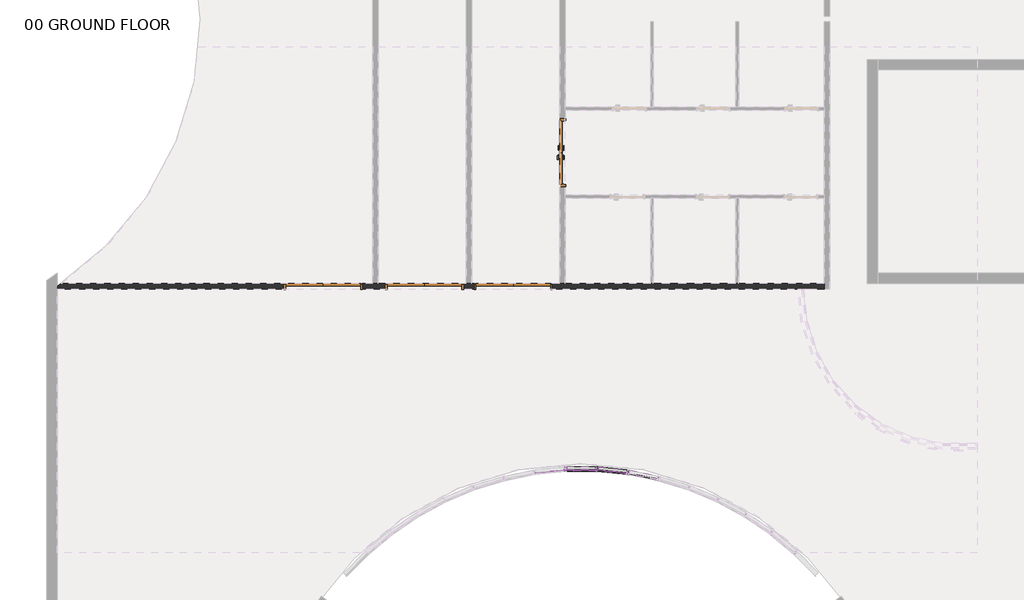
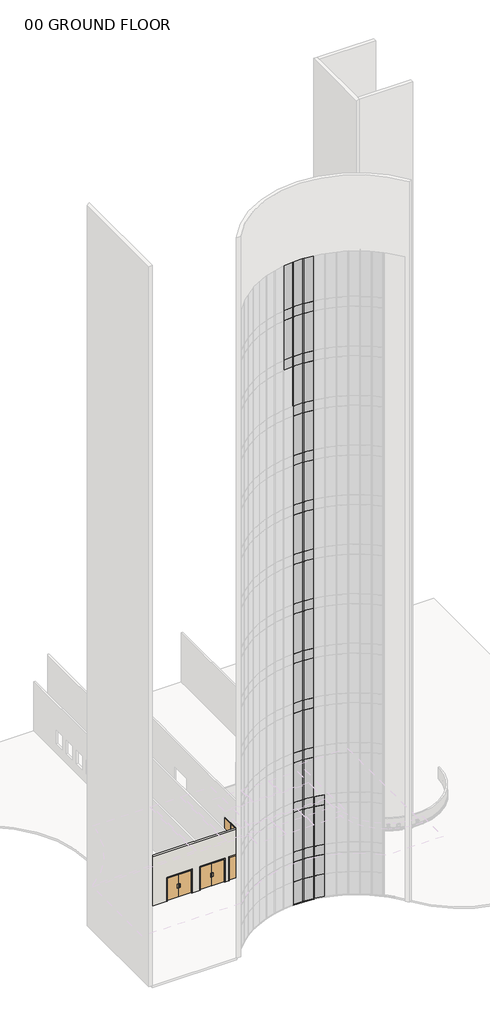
# One storey, part 8 of 33: 61 plates, 39 members, 4 doors, 1 wall.
"""IFC4 building model written with IfcOpenShell, lengths in millimetres."""

from ifc_helpers import new_model, si_unit, frame, origin, place, context, project, spatial, polyline, circle_curve, transform, mapped, element, save
from ifc_brep_helpers import plane_surface, revolved_surface, advanced_brep
from components import door_2f250f70, door_0b13e4d9, door_b3a27a16, member_ab6b85c2, member_7cbddb58, member_d60e8053, member_410c6227, member_810865a4, member_9e61c091, system_panel_su_blue_992d2dbe, system_panel_su_blue_f02faf6b, system_panel_su_blue_144861c6, system_panel_su_blue_654c3fe2, system_panel_su_blue_af244712

model = new_model("IFC4")

# Units and contexts
model_context = context("Model", 3, world=origin())
ifc_project = project(units=[si_unit("LENGTHUNIT", "METRE", prefix="MILLI")], contexts=[model_context])

# Site, building, storey
site = spatial("IfcSite", under=ifc_project)
building = spatial("IfcBuilding", under=site)
storey = spatial("IfcBuildingStorey", under=building, Name="00 GROUND FLOOR", Elevation=0.0)

# Doors
placement = place(None, origin())
door_shape = door_2f250f70(model_context)
element("IfcDoor", 1, ObjectType="Door-Passage-Double-Flush : 72\" x 82\"", at=placement, inside=storey, context=model_context, shape_type="MappedRepresentation", body=[
    mapped(door_shape, transform((14556.3400257, 13109.575, 0.0), x_axis=(0.0, 1.0, 0.0), y_axis=(-1.0, 0.0, 0.0), z_axis=(0.0, 0.0, 1.0))),
])
door_2_shape = door_0b13e4d9(model_context)
element("IfcDoor", 2, ObjectType="Door-Passage-Double-Flush-Dbl_Acting : 84\" x 84\"", at=placement, inside=storey, context=model_context, shape_type="MappedRepresentation", body=[
    mapped(door_2_shape, transform((13151.4025257, 9293.225, 0.0), x_axis=(-1.0, 0.0, 0.0), y_axis=(0.0, -1.0, 0.0), z_axis=(0.0, 0.0, 1.0))),
])
door_3_shape = door_b3a27a16(model_context)
element("IfcDoor", 3, ObjectType="Door-Passage-Double-Flush-Dbl_Acting : 84\" x 84\"", at=placement, inside=storey, context=model_context, shape_type="MappedRepresentation", body=[
    mapped(door_3_shape, transform((10620.375, 9293.225, 0.0), x_axis=(1.0, 0.0, 0.0), y_axis=(0.0, 1.0, 0.0), z_axis=(0.0, 0.0, 1.0))),
])
element("IfcDoor", 4, ObjectType="Door-Passage-Double-Flush-Dbl_Acting : 84\" x 84\"", at=placement, inside=storey, context=model_context, shape_type="MappedRepresentation", body=[
    mapped(door_3_shape, transform((7730.5724743, 9293.225, 0.0), x_axis=(1.0, 0.0, 0.0), y_axis=(0.0, 1.0, 0.0), z_axis=(0.0, 0.0, 1.0))),
])

# Members
member_shape = member_ab6b85c2(model_context)
element("IfcMember", 5, ObjectType="Rectangular Mullion : 2.5\" x 5\" rectangular", at=placement, inside=storey, context=model_context, shape_type="MappedRepresentation", body=[
    mapped(member_shape, transform((16458.8016748, 3983.2065504, 59436.0), x_axis=(0.0, 0.0, 1.0), y_axis=(0.1977415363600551, 0.9802541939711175, 0.0), z_axis=(-0.9802541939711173, 0.19774153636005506, 0.0))),
])
element("IfcMember", 6, ObjectType="Rectangular Mullion : 2.5\" x 5\" rectangular", at=placement, inside=storey, context=model_context, shape_type="MappedRepresentation", body=[
    mapped(member_shape, transform((15569.4774867, 4075.1819269, 59436.0), x_axis=(0.0, 0.0, 1.0), y_axis=(0.09936248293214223, 0.9950513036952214, 0.0), z_axis=(-0.9950513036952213, 0.09936248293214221, 0.0))),
])
element("IfcMember", 7, ObjectType="Rectangular Mullion : 2.5\" x 5\" rectangular", at=placement, inside=storey, context=model_context, shape_type="MappedRepresentation", body=[
    mapped(member_shape, transform((16396.0857253, 3992.639603, 0.0), x_axis=(0.0, 0.0, -1.0), y_axis=(0.09936248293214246, 0.9950513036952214, 0.0), z_axis=(0.9950513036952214, -0.09936248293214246, 0.0))),
])
element("IfcMember", 8, ObjectType="Rectangular Mullion : 2.5\" x 5\" rectangular", at=placement, inside=storey, context=model_context, shape_type="MappedRepresentation", body=[
    mapped(member_shape, transform((15506.1346078, 4078.3366857, 0.0), x_axis=(0.0, 0.0, -1.0), y_axis=(0.0, 1.0, 0.0), z_axis=(1.0, 0.0, 0.0))),
])
member_2_shape = member_7cbddb58(model_context)
element("IfcMember", 9, ObjectType="Rectangular Mullion : 2.5\" x 5\" rectangular", at=placement, inside=storey, context=model_context, shape_type="MappedRepresentation", body=[
    mapped(member_2_shape, transform((16427.6786042, 3989.4848442, 0.0), x_axis=(-0.988876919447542, 0.14873613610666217, 0.0), y_axis=(0.14873613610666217, 0.988876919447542, 0.0), z_axis=(0.0, 0.0, -1.0))),
])
element("IfcMember", 10, ObjectType="Rectangular Mullion : 2.5\" x 5\" rectangular", at=placement, inside=storey, context=model_context, shape_type="MappedRepresentation", body=[
    mapped(member_2_shape, transform((15537.8846078, 4078.3366857, 0.0), x_axis=(-0.9987620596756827, 0.04974282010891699, 0.0), y_axis=(0.04974282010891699, 0.9987620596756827, 0.0), z_axis=(0.0, 0.0, -1.0))),
])
member_3_shape = member_d60e8053(model_context)
element("IfcMember", 11, ObjectType="Rectangular Mullion : 2.5\" x 5\" rectangular", at=placement, inside=storey, context=model_context, shape_type="MappedRepresentation", body=[
    mapped(member_3_shape, transform((16427.6786042, 3989.4848442, 2133.6), x_axis=(-0.988876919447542, 0.14873613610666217, 0.0), y_axis=(0.14873613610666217, 0.988876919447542, 0.0), z_axis=(0.0, 0.0, -1.0))),
])
element("IfcMember", 12, ObjectType="Rectangular Mullion : 2.5\" x 5\" rectangular", at=placement, inside=storey, context=model_context, shape_type="MappedRepresentation", body=[
    mapped(member_3_shape, transform((15537.8846078, 4078.3366857, 2133.6), x_axis=(-0.9987620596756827, 0.04974282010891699, 0.0), y_axis=(0.04974282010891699, 0.9987620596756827, 0.0), z_axis=(0.0, 0.0, -1.0))),
])
member_4_shape = member_410c6227(model_context)
element("IfcMember", 13, ObjectType="Rectangular Mullion : 2.5\" x 5\" rectangular", at=placement, inside=storey, context=model_context, shape_type="MappedRepresentation", body=[
    mapped(member_4_shape, transform((16427.6786042, 3989.4848442, 3962.4), x_axis=(-0.988876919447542, 0.14873613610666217, 0.0), y_axis=(0.14873613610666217, 0.988876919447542, 0.0), z_axis=(0.0, 0.0, -1.0))),
])
element("IfcMember", 14, ObjectType="Rectangular Mullion : 2.5\" x 5\" rectangular", at=placement, inside=storey, context=model_context, shape_type="MappedRepresentation", body=[
    mapped(member_4_shape, transform((15537.8846078, 4078.3366857, 3962.4), x_axis=(-0.9987620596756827, 0.04974282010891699, 0.0), y_axis=(0.04974282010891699, 0.9987620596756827, 0.0), z_axis=(0.0, 0.0, -1.0))),
])
element("IfcMember", 15, ObjectType="Rectangular Mullion : 2.5\" x 5\" rectangular", at=placement, inside=storey, context=model_context, shape_type="MappedRepresentation", body=[
    mapped(member_4_shape, transform((15537.8846078, 4078.3366857, 8534.4), x_axis=(-0.9987620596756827, 0.04974282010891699, 0.0), y_axis=(0.04974282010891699, 0.9987620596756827, 0.0), z_axis=(0.0, 0.0, -1.0))),
])
element("IfcMember", 16, ObjectType="Rectangular Mullion : 2.5\" x 5\" rectangular", at=placement, inside=storey, context=model_context, shape_type="MappedRepresentation", body=[
    mapped(member_4_shape, transform((15537.8846078, 4078.3366857, 13106.4), x_axis=(-0.9987620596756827, 0.04974282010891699, 0.0), y_axis=(0.04974282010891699, 0.9987620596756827, 0.0), z_axis=(0.0, 0.0, -1.0))),
])
element("IfcMember", 17, ObjectType="Rectangular Mullion : 2.5\" x 5\" rectangular", at=placement, inside=storey, context=model_context, shape_type="MappedRepresentation", body=[
    mapped(member_4_shape, transform((15537.8846078, 4078.3366857, 17678.4), x_axis=(-0.9987620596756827, 0.04974282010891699, 0.0), y_axis=(0.04974282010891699, 0.9987620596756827, 0.0), z_axis=(0.0, 0.0, -1.0))),
])
element("IfcMember", 18, ObjectType="Rectangular Mullion : 2.5\" x 5\" rectangular", at=placement, inside=storey, context=model_context, shape_type="MappedRepresentation", body=[
    mapped(member_4_shape, transform((15537.8846078, 4078.3366857, 22250.4), x_axis=(-0.9987620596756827, 0.04974282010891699, 0.0), y_axis=(0.04974282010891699, 0.9987620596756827, 0.0), z_axis=(0.0, 0.0, -1.0))),
])
element("IfcMember", 19, ObjectType="Rectangular Mullion : 2.5\" x 5\" rectangular", at=placement, inside=storey, context=model_context, shape_type="MappedRepresentation", body=[
    mapped(member_4_shape, transform((15537.8846078, 4078.3366857, 26822.4), x_axis=(-0.9987620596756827, 0.04974282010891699, 0.0), y_axis=(0.04974282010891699, 0.9987620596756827, 0.0), z_axis=(0.0, 0.0, -1.0))),
])
element("IfcMember", 20, ObjectType="Rectangular Mullion : 2.5\" x 5\" rectangular", at=placement, inside=storey, context=model_context, shape_type="MappedRepresentation", body=[
    mapped(member_4_shape, transform((15537.8846078, 4078.3366857, 31394.4), x_axis=(-0.9987620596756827, 0.04974282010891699, 0.0), y_axis=(0.04974282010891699, 0.9987620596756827, 0.0), z_axis=(0.0, 0.0, -1.0))),
])
element("IfcMember", 21, ObjectType="Rectangular Mullion : 2.5\" x 5\" rectangular", at=placement, inside=storey, context=model_context, shape_type="MappedRepresentation", body=[
    mapped(member_4_shape, transform((15537.8846078, 4078.3366857, 35966.4), x_axis=(-0.9987620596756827, 0.04974282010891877, 0.0), y_axis=(0.04974282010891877, 0.9987620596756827, 0.0), z_axis=(0.0, 0.0, -1.0))),
])
element("IfcMember", 22, ObjectType="Rectangular Mullion : 2.5\" x 5\" rectangular", at=placement, inside=storey, context=model_context, shape_type="MappedRepresentation", body=[
    mapped(member_4_shape, transform((15537.8846078, 4078.3366857, 40538.4), x_axis=(-0.9987620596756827, 0.04974282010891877, 0.0), y_axis=(0.04974282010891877, 0.9987620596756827, 0.0), z_axis=(0.0, 0.0, -1.0))),
])
element("IfcMember", 23, ObjectType="Rectangular Mullion : 2.5\" x 5\" rectangular", at=placement, inside=storey, context=model_context, shape_type="MappedRepresentation", body=[
    mapped(member_4_shape, transform((15537.8846078, 4078.3366857, 45110.4), x_axis=(-0.9987620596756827, 0.04974282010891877, 0.0), y_axis=(0.04974282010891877, 0.9987620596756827, 0.0), z_axis=(0.0, 0.0, -1.0))),
])
element("IfcMember", 24, ObjectType="Rectangular Mullion : 2.5\" x 5\" rectangular", at=placement, inside=storey, context=model_context, shape_type="MappedRepresentation", body=[
    mapped(member_4_shape, transform((15537.8846078, 4078.3366857, 49682.4), x_axis=(-0.9987620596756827, 0.04974282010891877, 0.0), y_axis=(0.04974282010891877, 0.9987620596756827, 0.0), z_axis=(0.0, 0.0, -1.0))),
])
element("IfcMember", 25, ObjectType="Rectangular Mullion : 2.5\" x 5\" rectangular", at=placement, inside=storey, context=model_context, shape_type="MappedRepresentation", body=[
    mapped(member_4_shape, transform((14643.6653922, 4078.3366857, 49682.4), x_axis=(-0.9987620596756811, -0.04974282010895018, 0.0), y_axis=(-0.04974282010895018, 0.9987620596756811, 0.0), z_axis=(0.0, 0.0, -1.0))),
])
element("IfcMember", 26, ObjectType="Rectangular Mullion : 2.5\" x 5\" rectangular", at=placement, inside=storey, context=model_context, shape_type="MappedRepresentation", body=[
    mapped(member_4_shape, transform((15537.8846078, 4078.3366857, 54254.4), x_axis=(-0.9987620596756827, 0.04974282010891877, 0.0), y_axis=(0.04974282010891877, 0.9987620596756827, 0.0), z_axis=(0.0, 0.0, -1.0))),
])
element("IfcMember", 27, ObjectType="Rectangular Mullion : 2.5\" x 5\" rectangular", at=placement, inside=storey, context=model_context, shape_type="MappedRepresentation", body=[
    mapped(member_4_shape, transform((14643.6653922, 4078.3366857, 54254.4), x_axis=(-0.9987620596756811, -0.04974282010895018, 0.0), y_axis=(-0.04974282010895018, 0.9987620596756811, 0.0), z_axis=(0.0, 0.0, -1.0))),
])
member_5_shape = member_810865a4(model_context)
element("IfcMember", 28, ObjectType="Rectangular Mullion : 2.5\" x 5\" rectangular", at=placement, inside=storey, context=model_context, shape_type="MappedRepresentation", body=[
    mapped(member_5_shape, transform((16427.6786042, 3989.4848442, 4876.8), x_axis=(-0.988876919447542, 0.14873613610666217, 0.0), y_axis=(0.14873613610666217, 0.988876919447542, 0.0), z_axis=(0.0, 0.0, -1.0))),
])
element("IfcMember", 29, ObjectType="Rectangular Mullion : 2.5\" x 5\" rectangular", at=placement, inside=storey, context=model_context, shape_type="MappedRepresentation", body=[
    mapped(member_5_shape, transform((15537.8846078, 4078.3366857, 4876.8), x_axis=(-0.9987620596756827, 0.04974282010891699, 0.0), y_axis=(0.04974282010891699, 0.9987620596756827, 0.0), z_axis=(0.0, 0.0, -1.0))),
])
element("IfcMember", 30, ObjectType="Rectangular Mullion : 2.5\" x 5\" rectangular", at=placement, inside=storey, context=model_context, shape_type="MappedRepresentation", body=[
    mapped(member_5_shape, transform((15537.8846078, 4078.3366857, 9448.8), x_axis=(-0.9987620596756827, 0.04974282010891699, 0.0), y_axis=(0.04974282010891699, 0.9987620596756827, 0.0), z_axis=(0.0, 0.0, -1.0))),
])
element("IfcMember", 31, ObjectType="Rectangular Mullion : 2.5\" x 5\" rectangular", at=placement, inside=storey, context=model_context, shape_type="MappedRepresentation", body=[
    mapped(member_5_shape, transform((15537.8846078, 4078.3366857, 14020.8), x_axis=(-0.9987620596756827, 0.04974282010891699, 0.0), y_axis=(0.04974282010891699, 0.9987620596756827, 0.0), z_axis=(0.0, 0.0, -1.0))),
])
element("IfcMember", 32, ObjectType="Rectangular Mullion : 2.5\" x 5\" rectangular", at=placement, inside=storey, context=model_context, shape_type="MappedRepresentation", body=[
    mapped(member_5_shape, transform((15537.8846078, 4078.3366857, 18592.8), x_axis=(-0.9987620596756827, 0.04974282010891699, 0.0), y_axis=(0.04974282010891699, 0.9987620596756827, 0.0), z_axis=(0.0, 0.0, -1.0))),
])
element("IfcMember", 33, ObjectType="Rectangular Mullion : 2.5\" x 5\" rectangular", at=placement, inside=storey, context=model_context, shape_type="MappedRepresentation", body=[
    mapped(member_5_shape, transform((15537.8846078, 4078.3366857, 23164.8), x_axis=(-0.9987620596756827, 0.04974282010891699, 0.0), y_axis=(0.04974282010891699, 0.9987620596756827, 0.0), z_axis=(0.0, 0.0, -1.0))),
])
element("IfcMember", 34, ObjectType="Rectangular Mullion : 2.5\" x 5\" rectangular", at=placement, inside=storey, context=model_context, shape_type="MappedRepresentation", body=[
    mapped(member_5_shape, transform((15537.8846078, 4078.3366857, 27736.8), x_axis=(-0.9987620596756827, 0.04974282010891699, 0.0), y_axis=(0.04974282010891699, 0.9987620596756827, 0.0), z_axis=(0.0, 0.0, -1.0))),
])
element("IfcMember", 35, ObjectType="Rectangular Mullion : 2.5\" x 5\" rectangular", at=placement, inside=storey, context=model_context, shape_type="MappedRepresentation", body=[
    mapped(member_5_shape, transform((15537.8846078, 4078.3366857, 32308.8), x_axis=(-0.9987620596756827, 0.04974282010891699, 0.0), y_axis=(0.04974282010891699, 0.9987620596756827, 0.0), z_axis=(0.0, 0.0, -1.0))),
])
element("IfcMember", 36, ObjectType="Rectangular Mullion : 2.5\" x 5\" rectangular", at=placement, inside=storey, context=model_context, shape_type="MappedRepresentation", body=[
    mapped(member_5_shape, transform((15537.8846078, 4078.3366857, 36880.8), x_axis=(-0.9987620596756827, 0.04974282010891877, 0.0), y_axis=(0.04974282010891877, 0.9987620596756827, 0.0), z_axis=(0.0, 0.0, -1.0))),
])
element("IfcMember", 37, ObjectType="Rectangular Mullion : 2.5\" x 5\" rectangular", at=placement, inside=storey, context=model_context, shape_type="MappedRepresentation", body=[
    mapped(member_5_shape, transform((15537.8846078, 4078.3366857, 41452.8), x_axis=(-0.9987620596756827, 0.04974282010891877, 0.0), y_axis=(0.04974282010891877, 0.9987620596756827, 0.0), z_axis=(0.0, 0.0, -1.0))),
])
element("IfcMember", 38, ObjectType="Rectangular Mullion : 2.5\" x 5\" rectangular", at=placement, inside=storey, context=model_context, shape_type="MappedRepresentation", body=[
    mapped(member_5_shape, transform((15537.8846078, 4078.3366857, 46024.8), x_axis=(-0.9987620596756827, 0.04974282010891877, 0.0), y_axis=(0.04974282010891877, 0.9987620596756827, 0.0), z_axis=(0.0, 0.0, -1.0))),
])
element("IfcMember", 39, ObjectType="Rectangular Mullion : 2.5\" x 5\" rectangular", at=placement, inside=storey, context=model_context, shape_type="MappedRepresentation", body=[
    mapped(member_5_shape, transform((14643.6653922, 4078.3366857, 46024.8), x_axis=(-0.9987620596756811, -0.04974282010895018, 0.0), y_axis=(-0.04974282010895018, 0.9987620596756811, 0.0), z_axis=(0.0, 0.0, -1.0))),
])
element("IfcMember", 40, ObjectType="Rectangular Mullion : 2.5\" x 5\" rectangular", at=placement, inside=storey, context=model_context, shape_type="MappedRepresentation", body=[
    mapped(member_5_shape, transform((15537.8846078, 4078.3366857, 50596.8), x_axis=(-0.9987620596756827, 0.04974282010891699, 0.0), y_axis=(0.04974282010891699, 0.9987620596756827, 0.0), z_axis=(0.0, 0.0, -1.0))),
])
element("IfcMember", 41, ObjectType="Rectangular Mullion : 2.5\" x 5\" rectangular", at=placement, inside=storey, context=model_context, shape_type="MappedRepresentation", body=[
    mapped(member_5_shape, transform((14643.6653922, 4078.3366857, 50596.8), x_axis=(-0.9987620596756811, -0.04974282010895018, 0.0), y_axis=(-0.04974282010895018, 0.9987620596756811, 0.0), z_axis=(0.0, 0.0, -1.0))),
])
member_6_shape = member_9e61c091(model_context)
element("IfcMember", 42, ObjectType="Rectangular Mullion : 2.5\" x 5\" rectangular", at=placement, inside=storey, context=model_context, shape_type="MappedRepresentation", body=[
    mapped(member_6_shape, transform((15537.8846078, 4078.3366857, 55168.8), x_axis=(-0.9987620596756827, 0.04974282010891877, 0.0), y_axis=(0.04974282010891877, 0.9987620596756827, 0.0), z_axis=(0.0, 0.0, -1.0))),
])
element("IfcMember", 43, ObjectType="Rectangular Mullion : 2.5\" x 5\" rectangular", at=placement, inside=storey, context=model_context, shape_type="MappedRepresentation", body=[
    mapped(member_6_shape, transform((14643.6653922, 4078.3366857, 55168.8), x_axis=(-0.9987620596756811, -0.04974282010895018, 0.0), y_axis=(-0.04974282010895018, 0.9987620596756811, 0.0), z_axis=(0.0, 0.0, -1.0))),
])

# Plates
system_panel_su_blue_shape = system_panel_su_blue_992d2dbe(model_context)
element("IfcPlate", 44, ObjectType="System Panel : SU_BLUE", at=placement, inside=storey, context=model_context, shape_type="MappedRepresentation", body=[
    mapped(system_panel_su_blue_shape, transform((16865.9596724, 3901.0727034, 63.5), x_axis=(-0.9802541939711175, 0.19774153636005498, 0.0), y_axis=(-0.19774153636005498, -0.9802541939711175, 0.0), z_axis=(0.0, 0.0, 1.0))),
])
element("IfcPlate", 45, ObjectType="System Panel : SU_BLUE", at=placement, inside=storey, context=model_context, shape_type="MappedRepresentation", body=[
    mapped(system_panel_su_blue_shape, transform((15982.781606, 4033.910765, 63.5), x_axis=(-0.9950513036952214, 0.09936248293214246, 0.0), y_axis=(-0.09936248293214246, -0.9950513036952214, 0.0), z_axis=(0.0, 0.0, 1.0))),
])
element("IfcPlate", 46, ObjectType="System Panel : SU_BLUE", at=placement, inside=storey, context=model_context, shape_type="MappedRepresentation", body=[
    mapped(system_panel_su_blue_shape, transform((15090.775, 4078.3366857, 63.5), x_axis=(-1.0, 0.0, 0.0), y_axis=(0.0, -1.0, 0.0), z_axis=(0.0, 0.0, 1.0))),
])
system_panel_su_blue_2_shape = system_panel_su_blue_f02faf6b(model_context)
element("IfcPlate", 47, ObjectType="System Panel : SU_BLUE", at=placement, inside=storey, context=model_context, shape_type="MappedRepresentation", body=[
    mapped(system_panel_su_blue_2_shape, transform((16865.9596724, 3901.0727034, 2133.6), x_axis=(-0.9802541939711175, 0.19774153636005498, 0.0), y_axis=(-0.19774153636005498, -0.9802541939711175, 0.0), z_axis=(0.0, 0.0, 1.0))),
])
element("IfcPlate", 48, ObjectType="System Panel : SU_BLUE", at=placement, inside=storey, context=model_context, shape_type="MappedRepresentation", body=[
    mapped(system_panel_su_blue_2_shape, transform((15982.781606, 4033.910765, 2133.6), x_axis=(-0.9950513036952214, 0.09936248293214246, 0.0), y_axis=(-0.09936248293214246, -0.9950513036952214, 0.0), z_axis=(0.0, 0.0, 1.0))),
])
element("IfcPlate", 49, ObjectType="System Panel : SU_BLUE", at=placement, inside=storey, context=model_context, shape_type="MappedRepresentation", body=[
    mapped(system_panel_su_blue_2_shape, transform((15090.775, 4078.3366857, 2133.6), x_axis=(-1.0, 0.0, 0.0), y_axis=(0.0, -1.0, 0.0), z_axis=(0.0, 0.0, 1.0))),
])
system_panel_su_blue_3_shape = system_panel_su_blue_144861c6(model_context)
element("IfcPlate", 50, ObjectType="System Panel : SU_BLUE", at=placement, inside=storey, context=model_context, shape_type="MappedRepresentation", body=[
    mapped(system_panel_su_blue_3_shape, transform((16865.9596724, 3901.0727034, 3962.4), x_axis=(-0.9802541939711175, 0.19774153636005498, 0.0), y_axis=(-0.19774153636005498, -0.9802541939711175, 0.0), z_axis=(0.0, 0.0, 1.0))),
])
element("IfcPlate", 51, ObjectType="System Panel : SU_BLUE", at=placement, inside=storey, context=model_context, shape_type="MappedRepresentation", body=[
    mapped(system_panel_su_blue_3_shape, transform((15982.781606, 4033.910765, 3962.4), x_axis=(-0.9950513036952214, 0.09936248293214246, 0.0), y_axis=(-0.09936248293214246, -0.9950513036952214, 0.0), z_axis=(0.0, 0.0, 1.0))),
])
element("IfcPlate", 52, ObjectType="System Panel : SU_BLUE", at=placement, inside=storey, context=model_context, shape_type="MappedRepresentation", body=[
    mapped(system_panel_su_blue_3_shape, transform((15090.775, 4078.3366857, 3962.4), x_axis=(-1.0, 0.0, 0.0), y_axis=(0.0, -1.0, 0.0), z_axis=(0.0, 0.0, 1.0))),
])
element("IfcPlate", 53, ObjectType="System Panel : SU_BLUE", at=placement, inside=storey, context=model_context, shape_type="MappedRepresentation", body=[
    mapped(system_panel_su_blue_3_shape, transform((16865.9596724, 3901.0727034, 8534.4), x_axis=(-0.9802541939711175, 0.19774153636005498, 0.0), y_axis=(-0.19774153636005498, -0.9802541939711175, 0.0), z_axis=(0.0, 0.0, 1.0))),
])
element("IfcPlate", 54, ObjectType="System Panel : SU_BLUE", at=placement, inside=storey, context=model_context, shape_type="MappedRepresentation", body=[
    mapped(system_panel_su_blue_3_shape, transform((15982.781606, 4033.910765, 8534.4), x_axis=(-0.9950513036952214, 0.09936248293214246, 0.0), y_axis=(-0.09936248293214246, -0.9950513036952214, 0.0), z_axis=(0.0, 0.0, 1.0))),
])
element("IfcPlate", 55, ObjectType="System Panel : SU_BLUE", at=placement, inside=storey, context=model_context, shape_type="MappedRepresentation", body=[
    mapped(system_panel_su_blue_3_shape, transform((15090.775, 4078.3366857, 8534.4), x_axis=(-1.0, 0.0, 0.0), y_axis=(0.0, -1.0, 0.0), z_axis=(0.0, 0.0, 1.0))),
])
element("IfcPlate", 56, ObjectType="System Panel : SU_BLUE", at=placement, inside=storey, context=model_context, shape_type="MappedRepresentation", body=[
    mapped(system_panel_su_blue_3_shape, transform((15982.781606, 4033.910765, 13106.4), x_axis=(-0.9950513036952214, 0.09936248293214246, 0.0), y_axis=(-0.09936248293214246, -0.9950513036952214, 0.0), z_axis=(0.0, 0.0, 1.0))),
])
element("IfcPlate", 57, ObjectType="System Panel : SU_BLUE", at=placement, inside=storey, context=model_context, shape_type="MappedRepresentation", body=[
    mapped(system_panel_su_blue_3_shape, transform((15090.775, 4078.3366857, 13106.4), x_axis=(-1.0, 0.0, 0.0), y_axis=(0.0, -1.0, 0.0), z_axis=(0.0, 0.0, 1.0))),
])
element("IfcPlate", 58, ObjectType="System Panel : SU_BLUE", at=placement, inside=storey, context=model_context, shape_type="MappedRepresentation", body=[
    mapped(system_panel_su_blue_3_shape, transform((15982.781606, 4033.910765, 17678.4), x_axis=(-0.9950513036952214, 0.09936248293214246, 0.0), y_axis=(-0.09936248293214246, -0.9950513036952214, 0.0), z_axis=(0.0, 0.0, 1.0))),
])
element("IfcPlate", 59, ObjectType="System Panel : SU_BLUE", at=placement, inside=storey, context=model_context, shape_type="MappedRepresentation", body=[
    mapped(system_panel_su_blue_3_shape, transform((15090.775, 4078.3366857, 17678.4), x_axis=(-1.0, 0.0, 0.0), y_axis=(0.0, -1.0, 0.0), z_axis=(0.0, 0.0, 1.0))),
])
element("IfcPlate", 60, ObjectType="System Panel : SU_BLUE", at=placement, inside=storey, context=model_context, shape_type="MappedRepresentation", body=[
    mapped(system_panel_su_blue_3_shape, transform((15982.781606, 4033.910765, 22250.4), x_axis=(-0.9950513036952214, 0.09936248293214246, 0.0), y_axis=(-0.09936248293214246, -0.9950513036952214, 0.0), z_axis=(0.0, 0.0, 1.0))),
])
element("IfcPlate", 61, ObjectType="System Panel : SU_BLUE", at=placement, inside=storey, context=model_context, shape_type="MappedRepresentation", body=[
    mapped(system_panel_su_blue_3_shape, transform((15090.775, 4078.3366857, 22250.4), x_axis=(-1.0, 0.0, 0.0), y_axis=(0.0, -1.0, 0.0), z_axis=(0.0, 0.0, 1.0))),
])
element("IfcPlate", 62, ObjectType="System Panel : SU_BLUE", at=placement, inside=storey, context=model_context, shape_type="MappedRepresentation", body=[
    mapped(system_panel_su_blue_3_shape, transform((15982.781606, 4033.910765, 26822.4), x_axis=(-0.9950513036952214, 0.09936248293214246, 0.0), y_axis=(-0.09936248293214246, -0.9950513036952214, 0.0), z_axis=(0.0, 0.0, 1.0))),
])
element("IfcPlate", 63, ObjectType="System Panel : SU_BLUE", at=placement, inside=storey, context=model_context, shape_type="MappedRepresentation", body=[
    mapped(system_panel_su_blue_3_shape, transform((15090.775, 4078.3366857, 26822.4), x_axis=(-1.0, 0.0, 0.0), y_axis=(0.0, -1.0, 0.0), z_axis=(0.0, 0.0, 1.0))),
])
element("IfcPlate", 64, ObjectType="System Panel : SU_BLUE", at=placement, inside=storey, context=model_context, shape_type="MappedRepresentation", body=[
    mapped(system_panel_su_blue_3_shape, transform((15982.781606, 4033.910765, 31394.4), x_axis=(-0.9950513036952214, 0.09936248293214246, 0.0), y_axis=(-0.09936248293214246, -0.9950513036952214, 0.0), z_axis=(0.0, 0.0, 1.0))),
])
element("IfcPlate", 65, ObjectType="System Panel : SU_BLUE", at=placement, inside=storey, context=model_context, shape_type="MappedRepresentation", body=[
    mapped(system_panel_su_blue_3_shape, transform((15090.775, 4078.3366857, 31394.4), x_axis=(-1.0, 0.0, 0.0), y_axis=(0.0, -1.0, 0.0), z_axis=(0.0, 0.0, 1.0))),
])
element("IfcPlate", 66, ObjectType="System Panel : SU_BLUE", at=placement, inside=storey, context=model_context, shape_type="MappedRepresentation", body=[
    mapped(system_panel_su_blue_3_shape, transform((15982.781606, 4033.910765, 35966.4), x_axis=(-0.9950513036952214, 0.09936248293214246, 0.0), y_axis=(-0.09936248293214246, -0.9950513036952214, 0.0), z_axis=(0.0, 0.0, 1.0))),
])
element("IfcPlate", 67, ObjectType="System Panel : SU_BLUE", at=placement, inside=storey, context=model_context, shape_type="MappedRepresentation", body=[
    mapped(system_panel_su_blue_3_shape, transform((15090.775, 4078.3366857, 35966.4), x_axis=(-1.0, 0.0, 0.0), y_axis=(0.0, -1.0, 0.0), z_axis=(0.0, 0.0, 1.0))),
])
element("IfcPlate", 68, ObjectType="System Panel : SU_BLUE", at=placement, inside=storey, context=model_context, shape_type="MappedRepresentation", body=[
    mapped(system_panel_su_blue_3_shape, transform((15982.781606, 4033.910765, 40538.4), x_axis=(-0.9950513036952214, 0.09936248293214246, 0.0), y_axis=(-0.09936248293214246, -0.9950513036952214, 0.0), z_axis=(0.0, 0.0, 1.0))),
])
element("IfcPlate", 69, ObjectType="System Panel : SU_BLUE", at=placement, inside=storey, context=model_context, shape_type="MappedRepresentation", body=[
    mapped(system_panel_su_blue_3_shape, transform((15090.775, 4078.3366857, 40538.4), x_axis=(-1.0, 0.0, 0.0), y_axis=(0.0, -1.0, 0.0), z_axis=(0.0, 0.0, 1.0))),
])
element("IfcPlate", 70, ObjectType="System Panel : SU_BLUE", at=placement, inside=storey, context=model_context, shape_type="MappedRepresentation", body=[
    mapped(system_panel_su_blue_3_shape, transform((15982.781606, 4033.910765, 45110.4), x_axis=(-0.9950513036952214, 0.09936248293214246, 0.0), y_axis=(-0.09936248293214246, -0.9950513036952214, 0.0), z_axis=(0.0, 0.0, 1.0))),
])
element("IfcPlate", 71, ObjectType="System Panel : SU_BLUE", at=placement, inside=storey, context=model_context, shape_type="MappedRepresentation", body=[
    mapped(system_panel_su_blue_3_shape, transform((15090.775, 4078.3366857, 45110.4), x_axis=(-1.0, 0.0, 0.0), y_axis=(0.0, -1.0, 0.0), z_axis=(0.0, 0.0, 1.0))),
])
element("IfcPlate", 72, ObjectType="System Panel : SU_BLUE", at=placement, inside=storey, context=model_context, shape_type="MappedRepresentation", body=[
    mapped(system_panel_su_blue_3_shape, transform((15982.781606, 4033.910765, 49682.4), x_axis=(-0.9950513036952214, 0.09936248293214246, 0.0), y_axis=(-0.09936248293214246, -0.9950513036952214, 0.0), z_axis=(0.0, 0.0, 1.0))),
])
element("IfcPlate", 73, ObjectType="System Panel : SU_BLUE", at=placement, inside=storey, context=model_context, shape_type="MappedRepresentation", body=[
    mapped(system_panel_su_blue_3_shape, transform((15090.775, 4078.3366857, 49682.4), x_axis=(-1.0, 0.0, 0.0), y_axis=(0.0, -1.0, 0.0), z_axis=(0.0, 0.0, 1.0))),
])
element("IfcPlate", 74, ObjectType="System Panel : SU_BLUE", at=placement, inside=storey, context=model_context, shape_type="MappedRepresentation", body=[
    mapped(system_panel_su_blue_3_shape, transform((14198.768394, 4033.910765, 49682.4), x_axis=(-0.9950513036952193, -0.09936248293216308, 0.0), y_axis=(0.09936248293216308, -0.9950513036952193, 0.0), z_axis=(0.0, 0.0, 1.0))),
])
element("IfcPlate", 75, ObjectType="System Panel : SU_BLUE", at=placement, inside=storey, context=model_context, shape_type="MappedRepresentation", body=[
    mapped(system_panel_su_blue_3_shape, transform((15982.781606, 4033.910765, 54254.4), x_axis=(-0.9950513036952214, 0.09936248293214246, 0.0), y_axis=(-0.09936248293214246, -0.9950513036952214, 0.0), z_axis=(0.0, 0.0, 1.0))),
])
element("IfcPlate", 76, ObjectType="System Panel : SU_BLUE", at=placement, inside=storey, context=model_context, shape_type="MappedRepresentation", body=[
    mapped(system_panel_su_blue_3_shape, transform((15090.775, 4078.3366857, 54254.4), x_axis=(-1.0, 0.0, 0.0), y_axis=(0.0, -1.0, 0.0), z_axis=(0.0, 0.0, 1.0))),
])
element("IfcPlate", 77, ObjectType="System Panel : SU_BLUE", at=placement, inside=storey, context=model_context, shape_type="MappedRepresentation", body=[
    mapped(system_panel_su_blue_3_shape, transform((14198.768394, 4033.910765, 54254.4), x_axis=(-0.9950513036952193, -0.09936248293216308, 0.0), y_axis=(0.09936248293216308, -0.9950513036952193, 0.0), z_axis=(0.0, 0.0, 1.0))),
])
system_panel_su_blue_4_shape = system_panel_su_blue_654c3fe2(model_context)
element("IfcPlate", 78, ObjectType="System Panel : SU_BLUE", at=placement, inside=storey, context=model_context, shape_type="MappedRepresentation", body=[
    mapped(system_panel_su_blue_4_shape, transform((16865.9596724, 3901.0727034, 4876.8), x_axis=(-0.9802541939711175, 0.19774153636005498, 0.0), y_axis=(-0.19774153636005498, -0.9802541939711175, 0.0), z_axis=(0.0, 0.0, 1.0))),
])
element("IfcPlate", 79, ObjectType="System Panel : SU_BLUE", at=placement, inside=storey, context=model_context, shape_type="MappedRepresentation", body=[
    mapped(system_panel_su_blue_4_shape, transform((15982.781606, 4033.910765, 4876.8), x_axis=(-0.9950513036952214, 0.09936248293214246, 0.0), y_axis=(-0.09936248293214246, -0.9950513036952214, 0.0), z_axis=(0.0, 0.0, 1.0))),
])
element("IfcPlate", 80, ObjectType="System Panel : SU_BLUE", at=placement, inside=storey, context=model_context, shape_type="MappedRepresentation", body=[
    mapped(system_panel_su_blue_4_shape, transform((15090.775, 4078.3366857, 4876.8), x_axis=(-1.0, 0.0, 0.0), y_axis=(0.0, -1.0, 0.0), z_axis=(0.0, 0.0, 1.0))),
])
element("IfcPlate", 81, ObjectType="System Panel : SU_BLUE", at=placement, inside=storey, context=model_context, shape_type="MappedRepresentation", body=[
    mapped(system_panel_su_blue_4_shape, transform((15982.781606, 4033.910765, 9448.8), x_axis=(-0.9950513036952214, 0.09936248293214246, 0.0), y_axis=(-0.09936248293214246, -0.9950513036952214, 0.0), z_axis=(0.0, 0.0, 1.0))),
])
element("IfcPlate", 82, ObjectType="System Panel : SU_BLUE", at=placement, inside=storey, context=model_context, shape_type="MappedRepresentation", body=[
    mapped(system_panel_su_blue_4_shape, transform((15090.775, 4078.3366857, 9448.8), x_axis=(-1.0, 0.0, 0.0), y_axis=(0.0, -1.0, 0.0), z_axis=(0.0, 0.0, 1.0))),
])
element("IfcPlate", 83, ObjectType="System Panel : SU_BLUE", at=placement, inside=storey, context=model_context, shape_type="MappedRepresentation", body=[
    mapped(system_panel_su_blue_4_shape, transform((15982.781606, 4033.910765, 14020.8), x_axis=(-0.9950513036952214, 0.09936248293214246, 0.0), y_axis=(-0.09936248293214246, -0.9950513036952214, 0.0), z_axis=(0.0, 0.0, 1.0))),
])
element("IfcPlate", 84, ObjectType="System Panel : SU_BLUE", at=placement, inside=storey, context=model_context, shape_type="MappedRepresentation", body=[
    mapped(system_panel_su_blue_4_shape, transform((15090.775, 4078.3366857, 14020.8), x_axis=(-1.0, 0.0, 0.0), y_axis=(0.0, -1.0, 0.0), z_axis=(0.0, 0.0, 1.0))),
])
element("IfcPlate", 85, ObjectType="System Panel : SU_BLUE", at=placement, inside=storey, context=model_context, shape_type="MappedRepresentation", body=[
    mapped(system_panel_su_blue_4_shape, transform((15982.781606, 4033.910765, 18592.8), x_axis=(-0.9950513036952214, 0.09936248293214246, 0.0), y_axis=(-0.09936248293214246, -0.9950513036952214, 0.0), z_axis=(0.0, 0.0, 1.0))),
])
element("IfcPlate", 86, ObjectType="System Panel : SU_BLUE", at=placement, inside=storey, context=model_context, shape_type="MappedRepresentation", body=[
    mapped(system_panel_su_blue_4_shape, transform((15090.775, 4078.3366857, 18592.8), x_axis=(-1.0, 0.0, 0.0), y_axis=(0.0, -1.0, 0.0), z_axis=(0.0, 0.0, 1.0))),
])
element("IfcPlate", 87, ObjectType="System Panel : SU_BLUE", at=placement, inside=storey, context=model_context, shape_type="MappedRepresentation", body=[
    mapped(system_panel_su_blue_4_shape, transform((15982.781606, 4033.910765, 23164.8), x_axis=(-0.9950513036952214, 0.09936248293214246, 0.0), y_axis=(-0.09936248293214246, -0.9950513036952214, 0.0), z_axis=(0.0, 0.0, 1.0))),
])
element("IfcPlate", 88, ObjectType="System Panel : SU_BLUE", at=placement, inside=storey, context=model_context, shape_type="MappedRepresentation", body=[
    mapped(system_panel_su_blue_4_shape, transform((15090.775, 4078.3366857, 23164.8), x_axis=(-1.0, 0.0, 0.0), y_axis=(0.0, -1.0, 0.0), z_axis=(0.0, 0.0, 1.0))),
])
element("IfcPlate", 89, ObjectType="System Panel : SU_BLUE", at=placement, inside=storey, context=model_context, shape_type="MappedRepresentation", body=[
    mapped(system_panel_su_blue_4_shape, transform((15982.781606, 4033.910765, 27736.8), x_axis=(-0.9950513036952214, 0.09936248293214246, 0.0), y_axis=(-0.09936248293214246, -0.9950513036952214, 0.0), z_axis=(0.0, 0.0, 1.0))),
])
element("IfcPlate", 90, ObjectType="System Panel : SU_BLUE", at=placement, inside=storey, context=model_context, shape_type="MappedRepresentation", body=[
    mapped(system_panel_su_blue_4_shape, transform((15090.775, 4078.3366857, 27736.8), x_axis=(-1.0, 0.0, 0.0), y_axis=(0.0, -1.0, 0.0), z_axis=(0.0, 0.0, 1.0))),
])
element("IfcPlate", 91, ObjectType="System Panel : SU_BLUE", at=placement, inside=storey, context=model_context, shape_type="MappedRepresentation", body=[
    mapped(system_panel_su_blue_4_shape, transform((15982.781606, 4033.910765, 32308.8), x_axis=(-0.9950513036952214, 0.09936248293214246, 0.0), y_axis=(-0.09936248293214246, -0.9950513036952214, 0.0), z_axis=(0.0, 0.0, 1.0))),
])
element("IfcPlate", 92, ObjectType="System Panel : SU_BLUE", at=placement, inside=storey, context=model_context, shape_type="MappedRepresentation", body=[
    mapped(system_panel_su_blue_4_shape, transform((15090.775, 4078.3366857, 32308.8), x_axis=(-1.0, 0.0, 0.0), y_axis=(0.0, -1.0, 0.0), z_axis=(0.0, 0.0, 1.0))),
])
element("IfcPlate", 93, ObjectType="System Panel : SU_BLUE", at=placement, inside=storey, context=model_context, shape_type="MappedRepresentation", body=[
    mapped(system_panel_su_blue_4_shape, transform((15982.781606, 4033.910765, 36880.8), x_axis=(-0.9950513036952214, 0.09936248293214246, 0.0), y_axis=(-0.09936248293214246, -0.9950513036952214, 0.0), z_axis=(0.0, 0.0, 1.0))),
])
element("IfcPlate", 94, ObjectType="System Panel : SU_BLUE", at=placement, inside=storey, context=model_context, shape_type="MappedRepresentation", body=[
    mapped(system_panel_su_blue_4_shape, transform((15090.775, 4078.3366857, 36880.8), x_axis=(-1.0, 0.0, 0.0), y_axis=(0.0, -1.0, 0.0), z_axis=(0.0, 0.0, 1.0))),
])
element("IfcPlate", 95, ObjectType="System Panel : SU_BLUE", at=placement, inside=storey, context=model_context, shape_type="MappedRepresentation", body=[
    mapped(system_panel_su_blue_4_shape, transform((15982.781606, 4033.910765, 41452.8), x_axis=(-0.9950513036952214, 0.09936248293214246, 0.0), y_axis=(-0.09936248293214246, -0.9950513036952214, 0.0), z_axis=(0.0, 0.0, 1.0))),
])
element("IfcPlate", 96, ObjectType="System Panel : SU_BLUE", at=placement, inside=storey, context=model_context, shape_type="MappedRepresentation", body=[
    mapped(system_panel_su_blue_4_shape, transform((15090.775, 4078.3366857, 41452.8), x_axis=(-1.0, 0.0, 0.0), y_axis=(0.0, -1.0, 0.0), z_axis=(0.0, 0.0, 1.0))),
])
element("IfcPlate", 97, ObjectType="System Panel : SU_BLUE", at=placement, inside=storey, context=model_context, shape_type="MappedRepresentation", body=[
    mapped(system_panel_su_blue_4_shape, transform((15982.781606, 4033.910765, 46024.8), x_axis=(-0.9950513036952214, 0.09936248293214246, 0.0), y_axis=(-0.09936248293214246, -0.9950513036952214, 0.0), z_axis=(0.0, 0.0, 1.0))),
])
element("IfcPlate", 98, ObjectType="System Panel : SU_BLUE", at=placement, inside=storey, context=model_context, shape_type="MappedRepresentation", body=[
    mapped(system_panel_su_blue_4_shape, transform((15090.775, 4078.3366857, 46024.8), x_axis=(-1.0, 0.0, 0.0), y_axis=(0.0, -1.0, 0.0), z_axis=(0.0, 0.0, 1.0))),
])
element("IfcPlate", 99, ObjectType="System Panel : SU_BLUE", at=placement, inside=storey, context=model_context, shape_type="MappedRepresentation", body=[
    mapped(system_panel_su_blue_4_shape, transform((15982.781606, 4033.910765, 50596.8), x_axis=(-0.9950513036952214, 0.09936248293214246, 0.0), y_axis=(-0.09936248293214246, -0.9950513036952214, 0.0), z_axis=(0.0, 0.0, 1.0))),
])
element("IfcPlate", 100, ObjectType="System Panel : SU_BLUE", at=placement, inside=storey, context=model_context, shape_type="MappedRepresentation", body=[
    mapped(system_panel_su_blue_4_shape, transform((15090.775, 4078.3366857, 50596.8), x_axis=(-1.0, 0.0, 0.0), y_axis=(0.0, -1.0, 0.0), z_axis=(0.0, 0.0, 1.0))),
])
element("IfcPlate", 101, ObjectType="System Panel : SU_BLUE", at=placement, inside=storey, context=model_context, shape_type="MappedRepresentation", body=[
    mapped(system_panel_su_blue_4_shape, transform((14198.768394, 4033.910765, 50596.8), x_axis=(-0.9950513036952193, -0.09936248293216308, 0.0), y_axis=(0.09936248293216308, -0.9950513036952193, 0.0), z_axis=(0.0, 0.0, 1.0))),
])
system_panel_su_blue_5_shape = system_panel_su_blue_af244712(model_context)
element("IfcPlate", 102, ObjectType="System Panel : SU_BLUE", at=placement, inside=storey, context=model_context, shape_type="MappedRepresentation", body=[
    mapped(system_panel_su_blue_5_shape, transform((15982.781606, 4033.910765, 55168.8), x_axis=(-0.9950513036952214, 0.09936248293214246, 0.0), y_axis=(-0.09936248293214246, -0.9950513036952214, 0.0), z_axis=(0.0, 0.0, 1.0))),
])
element("IfcPlate", 103, ObjectType="System Panel : SU_BLUE", at=placement, inside=storey, context=model_context, shape_type="MappedRepresentation", body=[
    mapped(system_panel_su_blue_5_shape, transform((15090.775, 4078.3366857, 55168.8), x_axis=(-1.0, 0.0, 0.0), y_axis=(0.0, -1.0, 0.0), z_axis=(0.0, 0.0, 1.0))),
])
element("IfcPlate", 104, ObjectType="System Panel : SU_BLUE", at=placement, inside=storey, context=model_context, shape_type="MappedRepresentation", body=[
    mapped(system_panel_su_blue_5_shape, transform((14198.768394, 4033.910765, 55168.8), x_axis=(-0.9950513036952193, -0.09936248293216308, 0.0), y_axis=(0.09936248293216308, -0.9950513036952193, 0.0), z_axis=(0.0, 0.0, 1.0))),
])

# Wall
element("IfcWall", 105, ObjectType="SYR_INT_TWO_HOUR", at=placement, inside=storey, context=model_context, shape_type="AdvancedBrep", body=[
    advanced_brep(
    [(270.9292057, 9377.3625, 4572.0), (9144.0, 9377.3625, 4572.0), (9299.575, 9377.3625, 4572.0), (11808.1012629, 9377.3625, 4572.0), (11963.6762629, 9377.3625, 4572.0), (14472.2025257, 9377.3625, 4572.0), (14627.7775257, 9377.3625, 4572.0), (17066.1775257, 9377.3625, 4572.0), (17145.5525257, 9377.3625, 4572.0), (19496.6400257, 9377.3625, 4572.0), (19576.0150257, 9377.3625, 4572.0), (22014.4150257, 9377.3625, 4572.0), (22014.4150257, 9377.3625, 0.0), (19576.0150257, 9377.3625, 0.0), (19496.6400257, 9377.3625, 0.0), (17145.5525257, 9377.3625, 0.0), (17066.1775257, 9377.3625, 0.0), (14627.7775257, 9377.3625, 0.0), (14472.2025257, 9377.3625, 0.0), (14269.0025257, 9377.3625, 0.0), (14269.0025257, 9377.3625, 2235.2), (12033.8025257, 9377.3625, 2235.2), (12033.8025257, 9377.3625, 0.0), (11963.6762629, 9377.3625, 0.0), (11808.1012629, 9377.3625, 0.0), (11737.975, 9377.3625, 0.0), (11737.975, 9377.3625, 2235.2), (9502.775, 9377.3625, 2235.2), (9502.775, 9377.3625, 0.0), (9299.575, 9377.3625, 0.0), (9144.0, 9377.3625, 0.0), (8848.1724743, 9377.3625, 0.0), (8848.1724743, 9377.3625, 2235.2), (6612.9724743, 9377.3625, 2235.2), (6612.9724743, 9377.3625, 0.0), (270.9292057, 9377.3625, 0.0), (155.575, 9221.7875, 4572.0), (155.575, 9221.7875, 0.0), (6612.9724743, 9221.7875, 0.0), (6612.9724743, 9221.7875, 2235.2), (8848.1724743, 9221.7875, 2235.2), (8848.1724743, 9221.7875, 0.0), (9502.775, 9221.7875, 0.0), (9502.775, 9221.7875, 2235.2), (11737.975, 9221.7875, 2235.2), (11737.975, 9221.7875, 0.0), (12033.8025257, 9221.7875, 0.0), (12033.8025257, 9221.7875, 2235.2), (14269.0025257, 9221.7875, 2235.2), (14269.0025257, 9221.7875, 0.0), (22014.4150257, 9221.7875, 0.0), (22014.4150257, 9221.7875, 4572.0), (155.575, 9299.575, 0.0), (155.575, 9299.575, 4572.0)],
    [
        (0, 1),
        (1, 2),
        (2, 3),
        (3, 4),
        (4, 5),
        (5, 6),
        (6, 7),
        (7, 8),
        (8, 9),
        (9, 10),
        (10, 11),
        (11, 12),
        (12, 13),
        (13, 14),
        (14, 15),
        (15, 16),
        (16, 17),
        (17, 18),
        (18, 19),
        (19, 20),
        (20, 21),
        (21, 22),
        (22, 23),
        (23, 24),
        (24, 25),
        (25, 26),
        (26, 27),
        (27, 28),
        (28, 29),
        (29, 30),
        (30, 31),
        (31, 32),
        (32, 33),
        (33, 34),
        (34, 35),
        (35, 0),
        (36, 37),
        (37, 38),
        (38, 39),
        (39, 40),
        (40, 41),
        (41, 42),
        (42, 43),
        (43, 44),
        (44, 45),
        (45, 46),
        (46, 47),
        (47, 48),
        (48, 49),
        (49, 50),
        (50, 51),
        (51, 36),
        (37, 52),
        (52, 35, circle_curve(frame((-4898.9611805, 16919.575, 0.0), z_axis=(0.0, 0.0, 1.0), x_axis=(0.9902335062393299, -0.1394188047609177, 0.0)), 9144.0)),
        (34, 38),
        (22, 46),
        (45, 25),
        (28, 42),
        (41, 31),
        (12, 50),
        (49, 19),
        (0, 53, circle_curve(frame((-4898.9611805, 16919.575, 4572.0), z_axis=(0.0, 0.0, -1.0), x_axis=(0.9902335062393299, -0.1394188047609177, 0.0)), 9144.0)),
        (53, 36),
        (51, 11),
        (52, 53),
        (21, 47),
        (20, 48),
        (44, 26),
        (43, 27),
        (40, 32),
        (39, 33),
    ],
    [
        plane_surface(frame((44028.8300515, 9377.3625, 0.0), z_axis=(0.0, 1.0, 0.0), x_axis=(-1.0, 0.0, 0.0))),
        plane_surface(frame((44028.8300515, 9221.7875, 0.0), z_axis=(0.0, -1.0, 0.0), x_axis=(1.0, 0.0, 0.0))),
        plane_surface(frame((22092.2025257, 9377.3625, 0.0), z_axis=(0.0, 0.0, -1.0), x_axis=(0.0, -1.0, 0.0))),
        plane_surface(frame((0.0, 9377.3625, 4572.0), z_axis=(0.0, 0.0, 1.0), x_axis=(0.0, -1.0, 0.0))),
        revolved_surface(polyline([(4155.734000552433, 15644.72944926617, 4572.0), (4155.734000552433, 15644.72944926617, 0.0)]), (-4898.9611805, 16919.575, -228.6), (0.0, 0.0, 1.0)),
        plane_surface(frame((155.575, -1746.5262629, -228.6), z_axis=(-1.0, 0.0, 0.0), x_axis=(0.0, -1.0, 0.0))),
        plane_surface(frame((12033.8025257, 10745.7875, 0.0), z_axis=(1.0, 0.0, 0.0), x_axis=(0.0, -1.0, 0.0))),
        plane_surface(frame((12033.8025257, 10745.7875, 2235.2), z_axis=(0.0, 0.0, -1.0), x_axis=(0.0, -1.0, 0.0))),
        plane_surface(frame((14269.0025257, 10745.7875, 2235.2), z_axis=(-1.0, 0.0, 0.0), x_axis=(0.0, -1.0, 0.0))),
        plane_surface(frame((11737.975, 7697.7875, 0.0), z_axis=(-1.0, 0.0, 0.0), x_axis=(0.0, 1.0, 0.0))),
        plane_surface(frame((11737.975, 7697.7875, 2235.2), z_axis=(0.0, 0.0, -1.0), x_axis=(0.0, 1.0, 0.0))),
        plane_surface(frame((9502.775, 7697.7875, 2235.2), z_axis=(1.0, 0.0, 0.0), x_axis=(0.0, 1.0, 0.0))),
        plane_surface(frame((8848.1724743, 7697.7875, 0.0), z_axis=(-1.0, 0.0, 0.0), x_axis=(0.0, 1.0, 0.0))),
        plane_surface(frame((8848.1724743, 7697.7875, 2235.2), z_axis=(0.0, 0.0, -1.0), x_axis=(0.0, 1.0, 0.0))),
        plane_surface(frame((6612.9724743, 7697.7875, 2235.2), z_axis=(1.0, 0.0, 0.0), x_axis=(0.0, 1.0, 0.0))),
        plane_surface(frame((22014.4150257, 9299.575, 0.0), z_axis=(1.0, 0.0, 0.0), x_axis=(0.0, -1.0, 0.0))),
    ],
    [
        (0, [[1, 2, 3, 4, 5, 6, 7, 8, 9, 10, 11, 12, 13, 14, 15, 16, 17, 18, 19, 20, 21, 22, 23, 24, 25, 26, 27, 28, 29, 30, 31, 32, 33, 34, 35, 36]]),
        (1, [[37, 38, 39, 40, 41, 42, 43, 44, 45, 46, 47, 48, 49, 50, 51, 52]]),
        (2, [[53, 54, -35, 55, -38]]),
        (2, [[56, -46, 57, -25, -24, -23]]),
        (2, [[58, -42, 59, -31, -30, -29]]),
        (2, [[-19, -18, -17, -16, -15, -14, -13, 60, -50, 61]]),
        (3, [[-11, -10, -9, -8, -7, -6, -5, -4, -3, -2, -1, 62, 63, -52, 64]]),
        (4, [[-36, -54, 65, -62]]),
        (5, [[-37, -63, -65, -53]]),
        (6, [[66, -47, -56, -22]]),
        (7, [[-66, -21, 67, -48]]),
        (8, [[-67, -20, -61, -49]]),
        (9, [[68, -26, -57, -45]]),
        (10, [[-68, -44, 69, -27]]),
        (11, [[-69, -43, -58, -28]]),
        (12, [[70, -32, -59, -41]]),
        (13, [[-70, -40, 71, -33]]),
        (14, [[-71, -39, -55, -34]]),
        (15, [[-12, -64, -51, -60]]),
    ],
),
])

save(model, "model.ifc")
